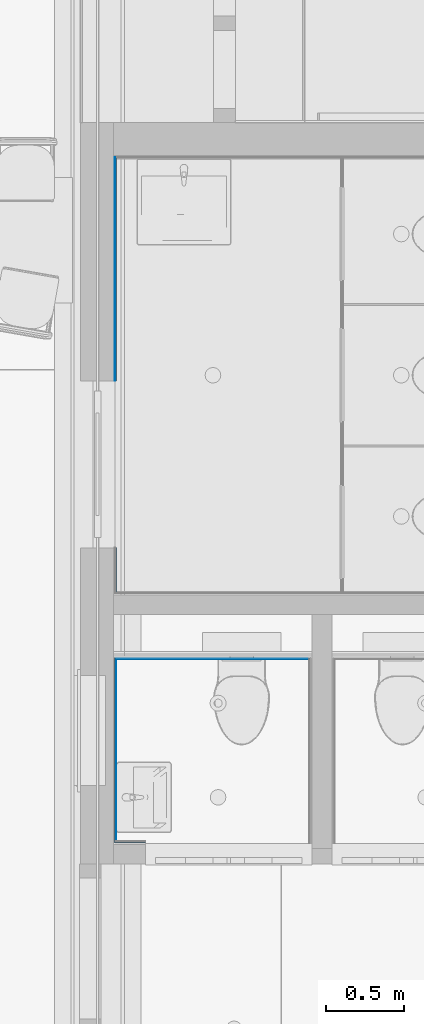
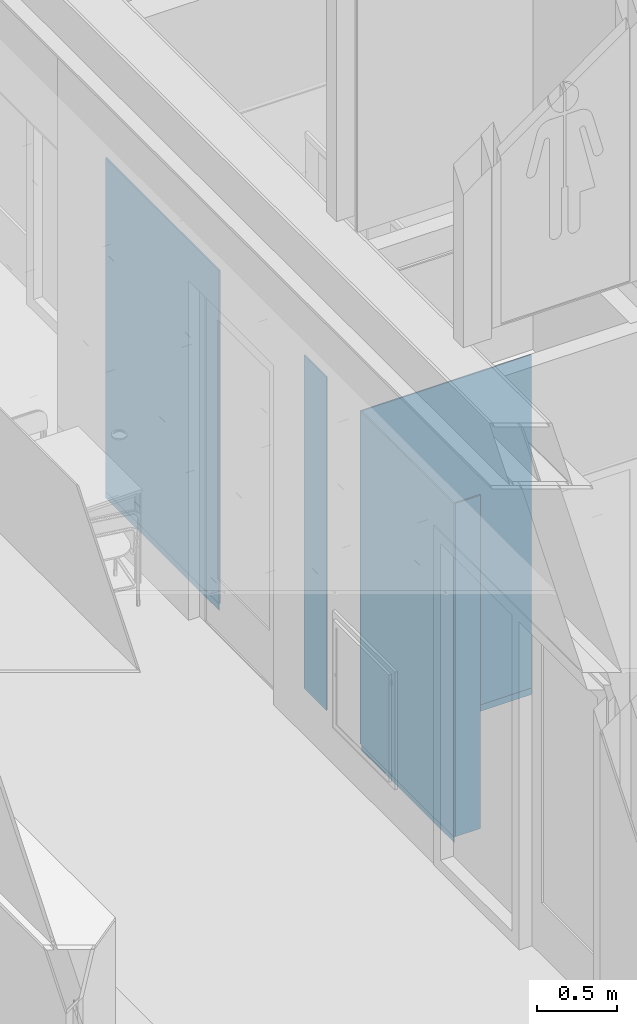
# One storey, part 115 of 347: 8 building element parts, 5 elements without a shape of their own.
"""IFC2X3 building model written with IfcOpenShell, lengths in millimetres."""

from ifc_helpers import new_model, entity, si_unit, converted_unit, derived_unit, money_unit, direction, frame, origin_with_axes, place, context, subcontext, project, spatial, faceted_brep, material, type_object, element, aggregate, save


model = new_model("IFC2X3")

# Units and contexts
model_context = context("Model", 3, precision=0.01, world=origin_with_axes(), true_north=direction((0.0, 1.0)))
plan_context = context("Plan", 3, precision=0.01, world=origin_with_axes(), true_north=direction((0.0, 1.0)))
body_context = subcontext(model_context, "Body", "Model", "MODEL_VIEW")
ifc_project = project(units=[si_unit("LENGTHUNIT", "METRE", prefix="MILLI"), si_unit("AREAUNIT", "SQUARE_METRE"), si_unit("VOLUMEUNIT", "CUBIC_METRE"), converted_unit("PLANEANGLEUNIT", "DEGREE", entity("IfcPlaneAngleMeasure", 0.0174532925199), si_unit("PLANEANGLEUNIT", "RADIAN"), dimensions=[0, 0, 0, 0, 0, 0, 0]), money_unit("EUR"), converted_unit("TIMEUNIT", "Year", entity("IfcTimeMeasure", 31556926.0), si_unit("TIMEUNIT", "SECOND"), dimensions=[0, 0, 1, 0, 0, 0, 0]), si_unit("MASSUNIT", "GRAM", prefix="KILO"), si_unit("THERMODYNAMICTEMPERATUREUNIT", "DEGREE_CELSIUS"), si_unit("LUMINOUSINTENSITYUNIT", "LUMEN"), si_unit("ENERGYUNIT", "JOULE", prefix="MEGA"), derived_unit("THERMALCONDUCTANCEUNIT", [(si_unit("POWERUNIT", "WATT"), 1), (si_unit("LENGTHUNIT", "METRE"), -1), (si_unit("THERMODYNAMICTEMPERATUREUNIT", "KELVIN"), -1)]), derived_unit("SPECIFICHEATCAPACITYUNIT", [(si_unit("ENERGYUNIT", "JOULE"), 1), (si_unit("MASSUNIT", "GRAM", prefix="KILO"), -1), (si_unit("THERMODYNAMICTEMPERATUREUNIT", "KELVIN"), -1)]), derived_unit("MASSDENSITYUNIT", [(si_unit("MASSUNIT", "GRAM", prefix="KILO"), 1), (si_unit("VOLUMEUNIT", "CUBIC_METRE"), -1)])], contexts=[model_context, plan_context])

# Site, building, storey
site_placement = place(None, origin_with_axes())
site = spatial("IfcSite", under=ifc_project, at=site_placement, Name="Site", CompositionType="ELEMENT")
building_placement = place(site_placement, origin_with_axes())
building = spatial("IfcBuilding", under=site, at=building_placement, Name="Naam gebouw", CompositionType="ELEMENT")
storey_placement = place(building_placement, origin_with_axes())
storey = spatial("IfcBuildingStorey", under=building, at=storey_placement, Name="begane grond", CompositionType="ELEMENT", Elevation=0.0)

# Proxy, building element part
building_element_proxy_type = type_object("IfcBuildingElementProxyType", Name="wandtegels 150x300 2600+ 10 x 2600", PredefinedType="NOTDEFINED")
proxy_1_placement = place(storey_placement, frame((35724.9999028, 32089.9999277, 0.0), z_axis=(0.0, 0.0, 1.0), x_axis=(0.0, -1.0, 0.0)))
proxy_1 = element("IfcBuildingElementProxy", 1, at=proxy_1_placement, inside=storey, type_object=building_element_proxy_type, Name="42_44 wandtegels keramisch")
ifc_material_1 = material(Name="Tegels - Wand")
building_element_part_1_placement = place(proxy_1_placement, origin_with_axes())
building_element_part_1 = element("IfcBuildingElementPart", 2, at=building_element_part_1_placement, material=ifc_material_1, Name="Tegels - Wand", context=body_context, shape_type="Brep", body=[
    faceted_brep([(279.99999968, -10.0, 2600.0), (279.99999968, 0.0, 2600.0), (0.0, 0.0, 2600.0), (0.0, -10.0, 2600.0), (279.99999968, 0.0, 50.0), (279.99999968, -10.0, 50.0), (279.99999968, -8.00001490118, 50.0), (0.0, 0.0, 50.0), (0.0, -8.00001490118, 50.0000059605), (0.0, -10.0, 50.0)], [[[0, 1, 2, 3]], [[4, 1, 0, 5, 6]], [[1, 4, 7, 2]], [[3, 2, 7, 8, 9]], [[5, 0, 3, 9]], [[6, 5, 9, 8]], [[4, 6, 8, 7]]]),
])
aggregate(proxy_1, [building_element_part_1])

proxy_2_placement = place(storey_placement, frame((35715.0, 30209.9999277, 0.0), z_axis=(0.0, 0.0, 1.0), x_axis=(1.0, 0.0, 0.0)))
proxy_2 = element("IfcBuildingElementProxy", 3, at=proxy_2_placement, inside=storey, type_object=building_element_proxy_type, Name="42_51 wandtegels keramisch")
building_element_part_2_placement = place(proxy_2_placement, origin_with_axes())
building_element_part_2 = element("IfcBuildingElementPart", 4, at=building_element_part_2_placement, material=ifc_material_1, Name="Tegels - Wand", context=body_context, shape_type="Brep", body=[
    faceted_brep([(10.0, 10.0, 50.0), (10.0, 10.0, 2600.0), (193.5, 10.0, 2600.0), (193.5, 10.0, 50.0), (10.0, 0.0, 2600.0), (10.0, 8.00001490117, 50.0), (10.0, 0.0, 50.0), (193.5, 0.0, 2600.0), (193.5, 0.0, 50.0), (193.5, 8.00001490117, 50.0000059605)], [[[0, 1, 2, 3]], [[4, 1, 0, 5, 6]], [[1, 4, 7, 2]], [[3, 2, 7, 8, 9]], [[5, 0, 3, 9]], [[6, 5, 9, 8]], [[4, 6, 8, 7]]]),
])
aggregate(proxy_2, [building_element_part_2])

# Proxy, building element parts
proxy_3_placement = place(storey_placement, frame((35715.0, 31389.9999277, 0.0), z_axis=(0.0, 0.0, 1.0), x_axis=(0.0, -1.0, 0.0)))
proxy_3 = element("IfcBuildingElementProxy", 5, at=proxy_3_placement, inside=storey, type_object=building_element_proxy_type, Name="42_50 wandtegels keramisch")
ifc_material_2 = material(Name="48 vloeivloer Bolidt")
building_element_part_3_placement = place(proxy_3_placement, origin_with_axes())
building_element_part_3 = element("IfcBuildingElementPart", 6, at=building_element_part_3_placement, material=ifc_material_2, Name="48 vloeivloer Bolidt", context=body_context, shape_type="Brep", body=[
    faceted_brep([(10.0000089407, 10.0000089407, 0.0), (10.0000089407, 10.0000089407, 50.0000059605), (1171.99999702, 10.0000089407, 50.0000059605), (1171.99999702, 10.0000089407, 0.0), (10.0000089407, 8.00001490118, 50.0000059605), (10.0000089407, 8.00001490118, 0.0), (1171.99999702, 8.00001490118, 50.0000059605), (1171.99999702, 8.00001490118, 0.0)], [[[0, 1, 2, 3]], [[4, 1, 0, 5]], [[1, 4, 6, 2]], [[7, 3, 2, 6]], [[5, 0, 3, 7]], [[4, 5, 7, 6]]]),
])
building_element_part_4_placement = place(proxy_3_placement, origin_with_axes())
building_element_part_4 = element("IfcBuildingElementPart", 7, at=building_element_part_4_placement, material=ifc_material_1, Name="Tegels - Wand", context=body_context, shape_type="Brep", body=[
    faceted_brep([(10.0, 10.0, 50.0), (10.0, 10.0, 2600.0), (1180.00001192, 10.0, 2600.0), (1180.00001192, 10.0, 50.0000059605), (10.0, 0.0, 2600.0), (10.0, 8.00001490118, 50.0), (10.0, 0.0, 50.0), (1180.00001192, 0.0, 2600.0), (1180.00001192, 8.00001490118, 50.0000059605), (1180.00001192, 0.0, 50.0000059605)], [[[0, 1, 2, 3]], [[4, 1, 0, 5, 6]], [[1, 4, 7, 2]], [[8, 3, 2, 7, 9]], [[5, 0, 3, 8]], [[6, 5, 8, 9]], [[4, 6, 9, 7]]]),
])
aggregate(proxy_3, [building_element_part_3, building_element_part_4])

proxy_4_placement = place(storey_placement, frame((36962.5, 31389.9999277, 0.0), z_axis=(0.0, 0.0, 1.0), x_axis=(-1.0, 0.0, 0.0)))
proxy_4 = element("IfcBuildingElementProxy", 8, at=proxy_4_placement, inside=storey, type_object=building_element_proxy_type, Name="42_49 wandtegels keramisch")
building_element_part_5_placement = place(proxy_4_placement, origin_with_axes())
building_element_part_5 = element("IfcBuildingElementPart", 9, at=building_element_part_5_placement, material=ifc_material_2, Name="48 vloeivloer Bolidt", context=body_context, shape_type="Brep", body=[
    faceted_brep([(10.0000089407, 10.0000089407, 50.0000059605), (10.0000089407, 8.00001490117, 50.0000059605), (1239.49999702, 8.00001490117, 50.0000059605), (1239.49999702, 10.0000089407, 50.0000059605), (10.0000089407, 8.00001490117, 0.0), (10.0000089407, 10.0000089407, 0.0), (1239.49999702, 8.00001490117, 0.0), (1239.49999702, 10.0000089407, 0.0)], [[[0, 1, 2, 3]], [[4, 1, 0, 5]], [[1, 4, 6, 2]], [[7, 3, 2, 6]], [[5, 0, 3, 7]], [[4, 5, 7, 6]]]),
])
building_element_part_6_placement = place(proxy_4_placement, origin_with_axes())
building_element_part_6 = element("IfcBuildingElementPart", 10, at=building_element_part_6_placement, material=ifc_material_1, Name="Tegels - Wand", context=body_context, shape_type="Brep", body=[
    faceted_brep([(10.0, 10.0, 2600.0), (10.0, 0.0, 2600.0), (1247.50001192, 0.0, 2600.0), (1247.50001192, 10.0, 2600.0), (10.0, 0.0, 50.0), (10.0, 10.0, 50.0), (10.0, 8.00001490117, 50.0), (1247.50001192, 0.0, 50.0000059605), (1247.50001192, 10.0, 50.0000059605), (1247.50001192, 8.00001490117, 50.0000059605)], [[[0, 1, 2, 3]], [[4, 1, 0, 5, 6]], [[1, 4, 7, 2]], [[8, 3, 2, 7, 9]], [[5, 0, 3, 8]], [[6, 5, 8, 9]], [[4, 6, 9, 7]]]),
])
aggregate(proxy_4, [building_element_part_5, building_element_part_6])

proxy_5_placement = place(storey_placement, frame((35724.9999028, 34569.9999308, 0.0), z_axis=(0.0, 0.0, 1.0), x_axis=(0.0, -1.0, 0.0)))
proxy_5 = element("IfcBuildingElementProxy", 11, at=proxy_5_placement, inside=storey, type_object=building_element_proxy_type, Name="42_44 wandtegels keramisch")
building_element_part_7_placement = place(proxy_5_placement, origin_with_axes())
building_element_part_7 = element("IfcBuildingElementPart", 12, at=building_element_part_7_placement, material=ifc_material_1, Name="Tegels - Wand", context=body_context, shape_type="Brep", body=[
    faceted_brep([(-10.0000889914, 0.0, 50.0000059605), (-10.0000889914, 0.0, 2600.0), (1416.00000317, 0.0, 2600.0), (1416.00000317, 0.0, 50.0), (-10.0000889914, -10.0, 2600.0), (-10.0000889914, -8.00001490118, 50.0000059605), (-10.0000889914, -10.0, 50.0000059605), (1416.00000317, -10.0, 2600.0), (1416.00000317, -8.00001490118, 50.0000059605), (1416.00000317, -10.0, 50.0)], [[[0, 1, 2, 3]], [[4, 1, 0, 5, 6]], [[1, 4, 7, 2]], [[8, 3, 2, 7, 9]], [[5, 0, 3, 8]], [[6, 5, 8, 9]], [[4, 6, 9, 7]]]),
])
building_element_part_8_placement = place(proxy_5_placement, origin_with_axes())
building_element_part_8 = element("IfcBuildingElementPart", 13, at=building_element_part_8_placement, material=ifc_material_2, Name="48 vloeivloer Bolidt", context=body_context, shape_type="Brep", body=[
    faceted_brep([(-10.0000889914, -8.00001490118, 0.0), (-10.0000889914, -8.00001490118, 50.0000059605), (1416.00000317, -8.00001490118, 50.0000059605), (1416.00000317, -8.00001490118, 0.0), (-10.0000889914, -10.0000089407, 0.0), (-10.0000889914, -10.0000089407, 50.0000059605), (1416.00000317, -10.0000089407, 50.0000059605), (1416.00000317, -10.0000089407, 0.0)], [[[0, 1, 2, 3]], [[1, 0, 4, 5]], [[1, 5, 6, 2]], [[2, 6, 7, 3]], [[4, 0, 3, 7]], [[5, 4, 7, 6]]]),
])
aggregate(proxy_5, [building_element_part_7, building_element_part_8])

save(model, "model.ifc")
